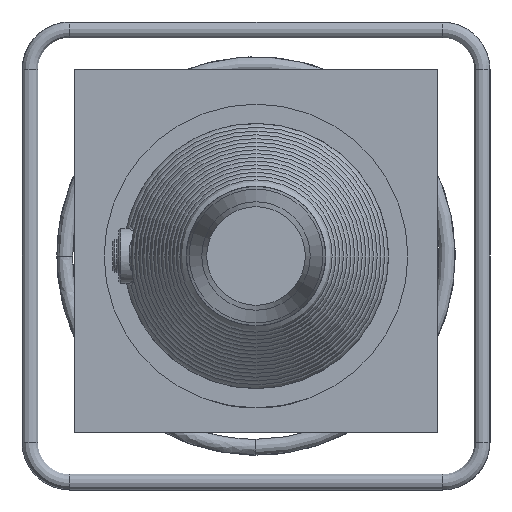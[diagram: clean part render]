
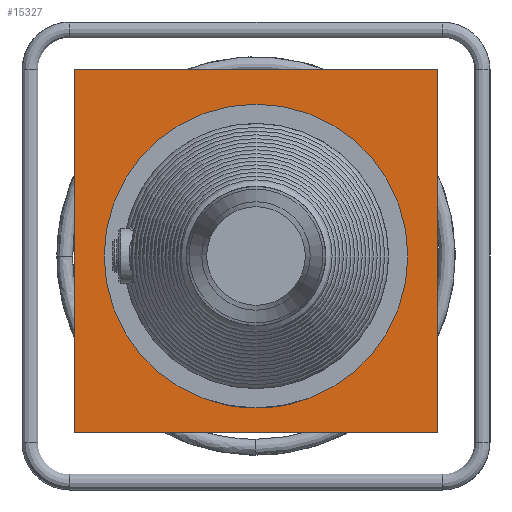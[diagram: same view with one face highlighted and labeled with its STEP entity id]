
A CAD part, left-side view. The second image highlights one B-rep face of the part: STEP entity #15327.
In plain terms, the highlighted planar face has unit normal (-1, 0, 0).
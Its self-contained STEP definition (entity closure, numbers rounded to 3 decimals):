
#1547=PLANE('',#16164);
#2455=LINE('',#39668,#3369);
#2459=LINE('',#39675,#3373);
#2462=LINE('',#39680,#3376);
#2465=LINE('',#39684,#3379);
#3369=VECTOR('',#18677,365.);
#3373=VECTOR('',#18683,365.);
#3376=VECTOR('',#18688,365.);
#3379=VECTOR('',#18693,365.);
#3649=FACE_BOUND('',#5568,.T.);
#4516=FACE_OUTER_BOUND('',#5567,.T.);
#5567=EDGE_LOOP('',(#13864,#13865,#13866,#13867));
#5568=EDGE_LOOP('',(#13868));
#6048=CIRCLE('',#16106,152.5);
#7510=VERTEX_POINT('',#35741);
#7535=VERTEX_POINT('',#39666);
#7536=VERTEX_POINT('',#39667);
#7538=VERTEX_POINT('',#39674);
#7539=VERTEX_POINT('',#39679);
#9639=EDGE_CURVE('',#7510,#7510,#6048,.T.);
#9666=EDGE_CURVE('',#7535,#7536,#2455,.T.);
#9670=EDGE_CURVE('',#7536,#7538,#2459,.T.);
#9673=EDGE_CURVE('',#7538,#7539,#2462,.T.);
#9676=EDGE_CURVE('',#7539,#7535,#2465,.T.);
#13864=ORIENTED_EDGE('',*,*,#9676,.T.);
#13865=ORIENTED_EDGE('',*,*,#9666,.T.);
#13866=ORIENTED_EDGE('',*,*,#9670,.T.);
#13867=ORIENTED_EDGE('',*,*,#9673,.T.);
#13868=ORIENTED_EDGE('',*,*,#9639,.T.);
#15327=ADVANCED_FACE('',(#4516,#3649),#1547,.T.);
#16106=AXIS2_PLACEMENT_3D('',#35742,#18561,#18562);
#16164=AXIS2_PLACEMENT_3D('',#39686,#18695,#18696);
#18561=DIRECTION('center_axis',(1.,0.,0.));
#18562=DIRECTION('ref_axis',(0.,1.,0.));
#18677=DIRECTION('',(0.,0.,-1.));
#18683=DIRECTION('',(0.,-1.,0.));
#18688=DIRECTION('',(0.,0.,1.));
#18693=DIRECTION('',(0.,1.,0.));
#18695=DIRECTION('center_axis',(-1.,0.,0.));
#18696=DIRECTION('ref_axis',(0.,0.,-1.));
#35741=CARTESIAN_POINT('',(-112.151,152.5,0.));
#35742=CARTESIAN_POINT('Origin',(-112.151,0.,
0.));
#39666=CARTESIAN_POINT('',(-112.151,182.5,187.753));
#39667=CARTESIAN_POINT('',(-112.151,182.5,-177.247));
#39668=CARTESIAN_POINT('',(-112.151,182.5,187.753));
#39674=CARTESIAN_POINT('',(-112.151,-182.5,-177.247));
#39675=CARTESIAN_POINT('',(-112.151,182.5,-177.247));
#39679=CARTESIAN_POINT('',(-112.151,-182.5,187.753));
#39680=CARTESIAN_POINT('',(-112.151,-182.5,-177.247));
#39684=CARTESIAN_POINT('',(-112.151,-182.5,187.753));
#39686=CARTESIAN_POINT('Origin',(-112.151,0.,
5.253));
